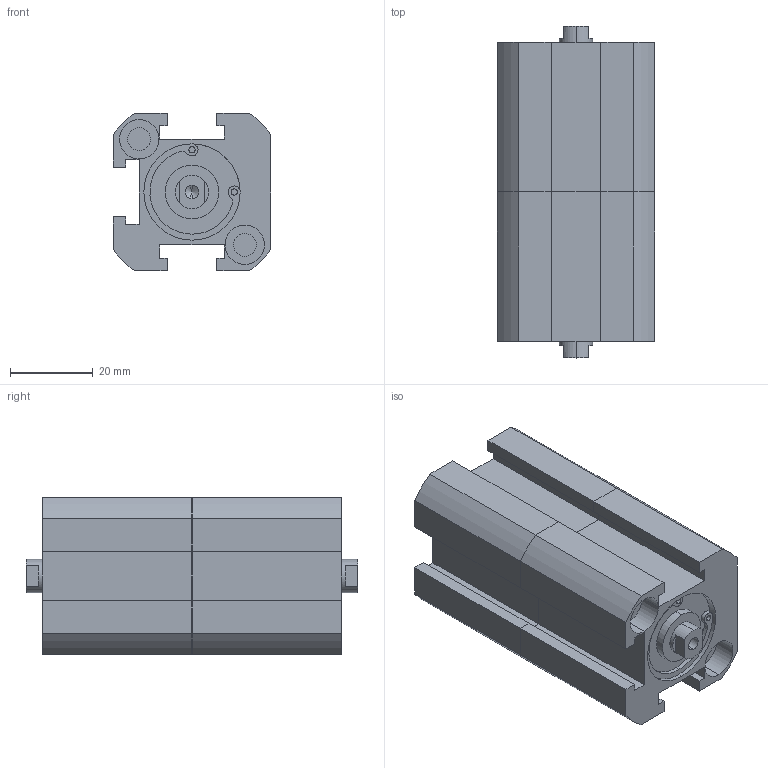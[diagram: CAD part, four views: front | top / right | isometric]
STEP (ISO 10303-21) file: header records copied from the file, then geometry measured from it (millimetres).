
FILE_DESCRIPTION (( 'STEP AP203' ), '1' );
FILE_NAME ('XGD7-20-10-10.STEP', '2016-08-05T01:42:38', ( '' ), ( '' ), 'SwSTEP 2.0', 'SolidWorks 2014', '' );
FILE_SCHEMA (( 'CONFIG_CONTROL_DESIGN' ));
Length unit declared in the file: millimetre
Products named in the file (2): XGD7-20-10-10; XG#2-20-10
Assembly tree (2 placements, depth 2):
  XGD7-20-10-10
    XG#2-20-10  x2
Bounding box: 38 x 80 x 38 mm (x, y, z)
Volume: 74875.2 mm3; surface area: 23200.2 mm2
Topology: 2 solids, 2 shells, 178 faces, 454 edges, 292 vertices
Faces by surface type: plane 88, cylinder 78, cone 12
Entity records: 2902 total; most frequent: DIRECTION 492, CARTESIAN_POINT 461, ORIENTED_EDGE 442, EDGE_CURVE 221, AXIS2_PLACEMENT_3D 177, VERTEX_POINT 146, LINE 138, VECTOR 138
